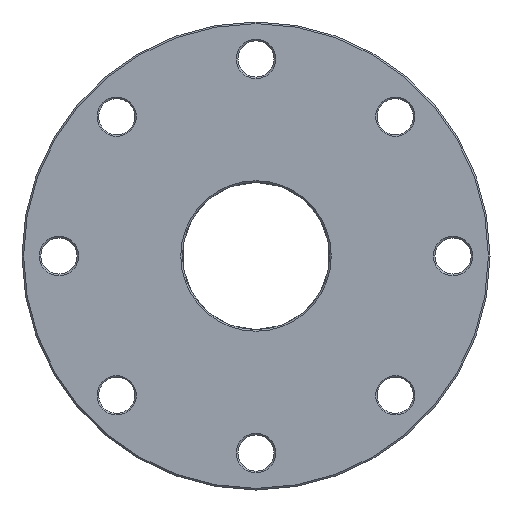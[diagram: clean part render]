
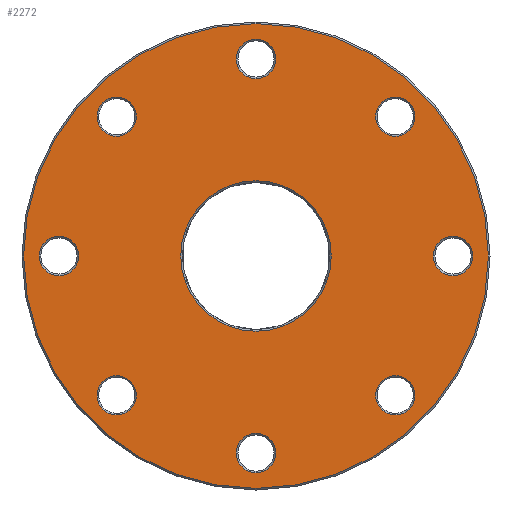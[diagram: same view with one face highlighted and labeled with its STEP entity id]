
A CAD part, front view. The second image highlights one B-rep face of the part: STEP entity #2272.
In plain terms, the highlighted planar face has unit normal (0, -1, 0).
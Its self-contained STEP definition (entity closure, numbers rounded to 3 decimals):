
#646=CARTESIAN_POINT('',(0.,-7.953,0.));
#647=DIRECTION('',(0.,-1.,0.));
#648=DIRECTION('',(1.,0.,0.));
#649=AXIS2_PLACEMENT_3D('',#646,#647,#648);
#654=CARTESIAN_POINT('',(0.,-7.953,0.));
#655=DIRECTION('',(0.,-1.,0.));
#656=DIRECTION('',(-1.,0.,0.));
#657=AXIS2_PLACEMENT_3D('',#654,#655,#656);
#662=CARTESIAN_POINT('',(-84.853,-7.953,84.853));
#663=DIRECTION('',(0.,1.,0.));
#664=DIRECTION('',(-0.707,0.,-0.707));
#665=AXIS2_PLACEMENT_3D('',#662,#663,#664);
#670=CARTESIAN_POINT('',(-84.853,-7.953,84.853));
#671=DIRECTION('',(0.,1.,0.));
#672=DIRECTION('',(0.707,0.,0.707));
#673=AXIS2_PLACEMENT_3D('',#670,#671,#672);
#678=CARTESIAN_POINT('',(-120.,-7.953,0.));
#679=DIRECTION('',(0.,1.,0.));
#680=DIRECTION('',(0.,0.,-1.));
#681=AXIS2_PLACEMENT_3D('',#678,#679,#680);
#686=CARTESIAN_POINT('',(-120.,-7.953,0.));
#687=DIRECTION('',(0.,1.,0.));
#688=DIRECTION('',(0.,0.,1.));
#689=AXIS2_PLACEMENT_3D('',#686,#687,#688);
#694=CARTESIAN_POINT('',(-84.853,-7.953,
-84.853));
#695=DIRECTION('',(0.,1.,0.));
#696=DIRECTION('',(0.707,0.,-0.707));
#697=AXIS2_PLACEMENT_3D('',#694,#695,#696);
#702=CARTESIAN_POINT('',(-84.853,-7.953,
-84.853));
#703=DIRECTION('',(0.,1.,0.));
#704=DIRECTION('',(-0.707,0.,0.707));
#705=AXIS2_PLACEMENT_3D('',#702,#703,#704);
#710=CARTESIAN_POINT('',(0.,-7.953,-120.));
#711=DIRECTION('',(0.,1.,0.));
#712=DIRECTION('',(1.,0.,0.));
#713=AXIS2_PLACEMENT_3D('',#710,#711,#712);
#718=CARTESIAN_POINT('',(0.,-7.953,-120.));
#719=DIRECTION('',(0.,1.,0.));
#720=DIRECTION('',(-1.,0.,0.));
#721=AXIS2_PLACEMENT_3D('',#718,#719,#720);
#726=CARTESIAN_POINT('',(84.853,-7.953,-84.853));
#727=DIRECTION('',(0.,1.,0.));
#728=DIRECTION('',(0.707,0.,0.707));
#729=AXIS2_PLACEMENT_3D('',#726,#727,#728);
#734=CARTESIAN_POINT('',(84.853,-7.953,-84.853));
#735=DIRECTION('',(0.,1.,0.));
#736=DIRECTION('',(-0.707,0.,-0.707));
#737=AXIS2_PLACEMENT_3D('',#734,#735,#736);
#742=CARTESIAN_POINT('',(120.,-7.953,0.));
#743=DIRECTION('',(0.,1.,0.));
#744=DIRECTION('',(0.,0.,-1.));
#745=AXIS2_PLACEMENT_3D('',#742,#743,#744);
#750=CARTESIAN_POINT('',(120.,-7.953,0.));
#751=DIRECTION('',(0.,1.,0.));
#752=DIRECTION('',(0.,0.,1.));
#753=AXIS2_PLACEMENT_3D('',#750,#751,#752);
#758=CARTESIAN_POINT('',(84.853,-7.953,84.853));
#759=DIRECTION('',(0.,1.,0.));
#760=DIRECTION('',(-0.707,0.,0.707));
#761=AXIS2_PLACEMENT_3D('',#758,#759,#760);
#766=CARTESIAN_POINT('',(84.853,-7.953,84.853));
#767=DIRECTION('',(0.,1.,0.));
#768=DIRECTION('',(0.707,0.,-0.707));
#769=AXIS2_PLACEMENT_3D('',#766,#767,#768);
#774=CARTESIAN_POINT('',(0.,-7.953,120.));
#775=DIRECTION('',(0.,1.,0.));
#776=DIRECTION('',(-1.,0.,0.));
#777=AXIS2_PLACEMENT_3D('',#774,#775,#776);
#782=CARTESIAN_POINT('',(0.,-7.953,120.));
#783=DIRECTION('',(0.,1.,0.));
#784=DIRECTION('',(1.,0.,0.));
#785=AXIS2_PLACEMENT_3D('',#782,#783,#784);
#790=CARTESIAN_POINT('',(0.,-7.953,0.));
#791=DIRECTION('',(0.,1.,0.));
#792=DIRECTION('',(1.,0.,0.));
#793=AXIS2_PLACEMENT_3D('',#790,#791,#792);
#798=CARTESIAN_POINT('',(0.,-7.953,0.));
#799=DIRECTION('',(0.,1.,0.));
#800=DIRECTION('',(-1.,0.,0.));
#801=AXIS2_PLACEMENT_3D('',#798,#799,#800);
#1665=CARTESIAN_POINT('',(141.5,-7.953,0.));
#1666=CARTESIAN_POINT('',(-141.5,-7.953,0.));
#1667=VERTEX_POINT('',#1665);
#1668=VERTEX_POINT('',#1666);
#1673=CARTESIAN_POINT('',(-93.338,-7.953,
76.368));
#1674=CARTESIAN_POINT('',(-76.368,-7.953,
93.338));
#1675=VERTEX_POINT('',#1673);
#1676=VERTEX_POINT('',#1674);
#1681=CARTESIAN_POINT('',(-120.,-7.953,-12.));
#1682=CARTESIAN_POINT('',(-120.,-7.953,12.));
#1683=VERTEX_POINT('',#1681);
#1684=VERTEX_POINT('',#1682);
#1689=CARTESIAN_POINT('',(-76.368,-7.953,
-93.338));
#1690=CARTESIAN_POINT('',(-93.338,-7.953,
-76.368));
#1691=VERTEX_POINT('',#1689);
#1692=VERTEX_POINT('',#1690);
#1697=CARTESIAN_POINT('',(12.,-7.953,-120.));
#1698=CARTESIAN_POINT('',(-12.,-7.953,-120.));
#1699=VERTEX_POINT('',#1697);
#1700=VERTEX_POINT('',#1698);
#1705=CARTESIAN_POINT('',(93.338,-7.953,
-76.368));
#1706=CARTESIAN_POINT('',(76.368,-7.953,
-93.338));
#1707=VERTEX_POINT('',#1705);
#1708=VERTEX_POINT('',#1706);
#1713=CARTESIAN_POINT('',(120.,-7.953,-12.));
#1714=CARTESIAN_POINT('',(120.,-7.953,12.));
#1715=VERTEX_POINT('',#1713);
#1716=VERTEX_POINT('',#1714);
#1721=CARTESIAN_POINT('',(76.368,-7.953,93.338));
#1722=CARTESIAN_POINT('',(93.338,-7.953,76.368));
#1723=VERTEX_POINT('',#1721);
#1724=VERTEX_POINT('',#1722);
#1729=CARTESIAN_POINT('',(-12.,-7.953,120.));
#1730=CARTESIAN_POINT('',(12.,-7.953,120.));
#1731=VERTEX_POINT('',#1729);
#1732=VERTEX_POINT('',#1730);
#1737=CARTESIAN_POINT('',(45.793,-7.953,
0.));
#1738=CARTESIAN_POINT('',(-45.793,-7.953,
0.));
#1739=VERTEX_POINT('',#1737);
#1740=VERTEX_POINT('',#1738);
#2208=CARTESIAN_POINT('',(0.,-7.953,0.));
#2209=DIRECTION('',(0.,-1.,0.));
#2210=DIRECTION('',(1.,0.,0.));
#2211=AXIS2_PLACEMENT_3D('',#2208,#2209,#2210);
#2212=PLANE('',#2211);
#2214=ORIENTED_EDGE('',*,*,#2213,.F.);
#2216=ORIENTED_EDGE('',*,*,#2215,.F.);
#2217=EDGE_LOOP('',(#2214,#2216));
#2218=FACE_OUTER_BOUND('',#2217,.F.);
#2220=ORIENTED_EDGE('',*,*,#2219,.F.);
#2222=ORIENTED_EDGE('',*,*,#2221,.F.);
#2223=EDGE_LOOP('',(#2220,#2222));
#2224=FACE_BOUND('',#2223,.F.);
#2226=ORIENTED_EDGE('',*,*,#2225,.F.);
#2228=ORIENTED_EDGE('',*,*,#2227,.F.);
#2229=EDGE_LOOP('',(#2226,#2228));
#2230=FACE_BOUND('',#2229,.F.);
#2232=ORIENTED_EDGE('',*,*,#2231,.F.);
#2234=ORIENTED_EDGE('',*,*,#2233,.F.);
#2235=EDGE_LOOP('',(#2232,#2234));
#2236=FACE_BOUND('',#2235,.F.);
#2238=ORIENTED_EDGE('',*,*,#2237,.F.);
#2240=ORIENTED_EDGE('',*,*,#2239,.F.);
#2241=EDGE_LOOP('',(#2238,#2240));
#2242=FACE_BOUND('',#2241,.F.);
#2244=ORIENTED_EDGE('',*,*,#2243,.F.);
#2246=ORIENTED_EDGE('',*,*,#2245,.F.);
#2247=EDGE_LOOP('',(#2244,#2246));
#2248=FACE_BOUND('',#2247,.F.);
#2250=ORIENTED_EDGE('',*,*,#2249,.F.);
#2252=ORIENTED_EDGE('',*,*,#2251,.F.);
#2253=EDGE_LOOP('',(#2250,#2252));
#2254=FACE_BOUND('',#2253,.F.);
#2256=ORIENTED_EDGE('',*,*,#2255,.F.);
#2258=ORIENTED_EDGE('',*,*,#2257,.F.);
#2259=EDGE_LOOP('',(#2256,#2258));
#2260=FACE_BOUND('',#2259,.F.);
#2262=ORIENTED_EDGE('',*,*,#2261,.F.);
#2264=ORIENTED_EDGE('',*,*,#2263,.F.);
#2265=EDGE_LOOP('',(#2262,#2264));
#2266=FACE_BOUND('',#2265,.F.);
#2268=ORIENTED_EDGE('',*,*,#2267,.F.);
#2269=ORIENTED_EDGE('',*,*,#2198,.F.);
#2270=EDGE_LOOP('',(#2268,#2269));
#2271=FACE_BOUND('',#2270,.F.);
#650=CIRCLE('',#649,141.5);
#658=CIRCLE('',#657,141.5);
#666=CIRCLE('',#665,12.);
#674=CIRCLE('',#673,12.);
#682=CIRCLE('',#681,12.);
#690=CIRCLE('',#689,12.);
#698=CIRCLE('',#697,12.);
#706=CIRCLE('',#705,12.);
#714=CIRCLE('',#713,12.);
#722=CIRCLE('',#721,12.);
#730=CIRCLE('',#729,12.);
#738=CIRCLE('',#737,12.);
#746=CIRCLE('',#745,12.);
#754=CIRCLE('',#753,12.);
#762=CIRCLE('',#761,12.);
#770=CIRCLE('',#769,12.);
#778=CIRCLE('',#777,12.);
#786=CIRCLE('',#785,12.);
#794=CIRCLE('',#793,45.793);
#802=CIRCLE('',#801,45.793);
#2198=EDGE_CURVE('',#1740,#1739,#802,.T.);
#2213=EDGE_CURVE('',#1667,#1668,#650,.T.);
#2215=EDGE_CURVE('',#1668,#1667,#658,.T.);
#2219=EDGE_CURVE('',#1675,#1676,#666,.T.);
#2221=EDGE_CURVE('',#1676,#1675,#674,.T.);
#2225=EDGE_CURVE('',#1683,#1684,#682,.T.);
#2227=EDGE_CURVE('',#1684,#1683,#690,.T.);
#2231=EDGE_CURVE('',#1691,#1692,#698,.T.);
#2233=EDGE_CURVE('',#1692,#1691,#706,.T.);
#2237=EDGE_CURVE('',#1699,#1700,#714,.T.);
#2239=EDGE_CURVE('',#1700,#1699,#722,.T.);
#2243=EDGE_CURVE('',#1707,#1708,#730,.T.);
#2245=EDGE_CURVE('',#1708,#1707,#738,.T.);
#2249=EDGE_CURVE('',#1715,#1716,#746,.T.);
#2251=EDGE_CURVE('',#1716,#1715,#754,.T.);
#2255=EDGE_CURVE('',#1723,#1724,#762,.T.);
#2257=EDGE_CURVE('',#1724,#1723,#770,.T.);
#2261=EDGE_CURVE('',#1731,#1732,#778,.T.);
#2263=EDGE_CURVE('',#1732,#1731,#786,.T.);
#2267=EDGE_CURVE('',#1739,#1740,#794,.T.);
#2272=ADVANCED_FACE('',(#2218,#2224,#2230,#2236,#2242,#2248,#2254,#2260,#2266,
#2271),#2212,.T.);
